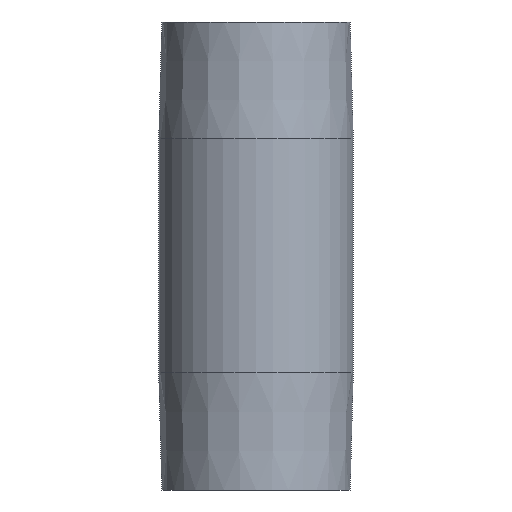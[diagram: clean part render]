
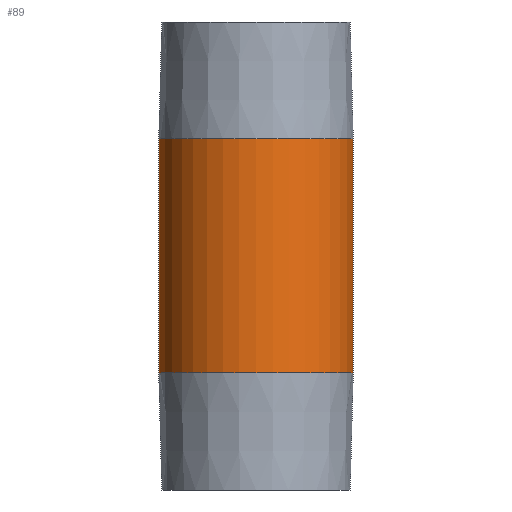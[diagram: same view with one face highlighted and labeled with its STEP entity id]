
A CAD part, front view. The second image highlights one B-rep face of the part: STEP entity #89.
In plain terms, the highlighted cylindrical face has radius 16 mm (diameter 32 mm), a partial arc.
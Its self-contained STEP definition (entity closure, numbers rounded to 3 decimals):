
#3 = LINE ( 'NONE', #274, #198 ) ;
#16 = DIRECTION ( 'NONE',  ( 1., 0., 0. ) ) ;
#24 = VERTEX_POINT ( 'NONE', #72 ) ;
#34 = AXIS2_PLACEMENT_3D ( 'NONE', #143, #53, #16 ) ;
#35 = CARTESIAN_POINT ( 'NONE',  ( 0., 0., 38.5 ) ) ;
#53 = DIRECTION ( 'NONE',  ( 0., 0., 1. ) ) ;
#72 = CARTESIAN_POINT ( 'NONE',  ( 16., 0., 19.25 ) ) ;
#89 = ADVANCED_FACE ( 'NONE', ( #417 ), #238, .T. ) ;
#94 = CARTESIAN_POINT ( 'NONE',  ( -16., 0., -19.25 ) ) ;
#107 = DIRECTION ( 'NONE',  ( -1., 0., 0. ) ) ;
#111 = ORIENTED_EDGE ( 'NONE', *, *, #294, .F. ) ;
#128 = DIRECTION ( 'NONE',  ( 0., 0., -1. ) ) ;
#129 = ORIENTED_EDGE ( 'NONE', *, *, #303, .T. ) ;
#143 = CARTESIAN_POINT ( 'NONE',  ( 0., 0., -19.25 ) ) ;
#147 = CARTESIAN_POINT ( 'NONE',  ( 0., 0., 19.25 ) ) ;
#153 = CARTESIAN_POINT ( 'NONE',  ( 16., 0., -19.25 ) ) ;
#159 = AXIS2_PLACEMENT_3D ( 'NONE', #35, #443, #107 ) ;
#191 = VERTEX_POINT ( 'NONE', #255 ) ;
#198 = VECTOR ( 'NONE', #457, 1000. ) ;
#199 = DIRECTION ( 'NONE',  ( 1., 0., 0. ) ) ;
#237 = CARTESIAN_POINT ( 'NONE',  ( 16., 0., 38.5 ) ) ;
#238 = CYLINDRICAL_SURFACE ( 'NONE', #159, 16. ) ;
#247 = VECTOR ( 'NONE', #128, 1000. ) ;
#255 = CARTESIAN_POINT ( 'NONE',  ( -16., 0., 19.25 ) ) ;
#264 = ORIENTED_EDGE ( 'NONE', *, *, #345, .F. ) ;
#274 = CARTESIAN_POINT ( 'NONE',  ( -16., 0., 38.5 ) ) ;
#294 = EDGE_CURVE ( 'NONE', #191, #24, #437, .T. ) ;
#300 = DIRECTION ( 'NONE',  ( 0., 0., 1. ) ) ;
#303 = EDGE_CURVE ( 'NONE', #404, #469, #379, .T. ) ;
#315 = LINE ( 'NONE', #237, #247 ) ;
#329 = ORIENTED_EDGE ( 'NONE', *, *, #349, .T. ) ;
#340 = EDGE_LOOP ( 'NONE', ( #264, #111, #329, #129 ) ) ;
#345 = EDGE_CURVE ( 'NONE', #24, #469, #315, .T. ) ;
#349 = EDGE_CURVE ( 'NONE', #191, #404, #3, .T. ) ;
#379 = CIRCLE ( 'NONE', #34, 16. ) ;
#404 = VERTEX_POINT ( 'NONE', #94 ) ;
#417 = FACE_OUTER_BOUND ( 'NONE', #340, .T. ) ;
#437 = CIRCLE ( 'NONE', #463, 16. ) ;
#443 = DIRECTION ( 'NONE',  ( 0., 0., -1. ) ) ;
#457 = DIRECTION ( 'NONE',  ( 0., 0., -1. ) ) ;
#463 = AXIS2_PLACEMENT_3D ( 'NONE', #147, #300, #199 ) ;
#469 = VERTEX_POINT ( 'NONE', #153 ) ;
